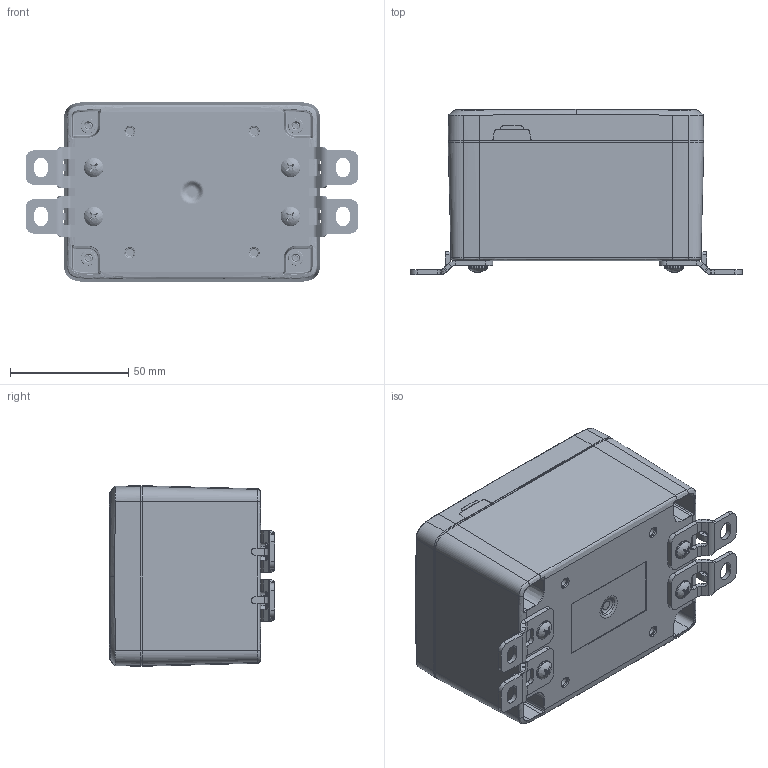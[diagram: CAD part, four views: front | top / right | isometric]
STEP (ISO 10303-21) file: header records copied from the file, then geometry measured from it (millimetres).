
FILE_DESCRIPTION (( 'STEP AP214' ), '1' );
FILE_NAME ('HN-34-22.STEP', '2026-09-24T17:59:54', ( '' ), ( '' ), 'SwSTEP 2.0', 'SolidWorks 2026', '' );
FILE_SCHEMA (( 'AUTOMOTIVE_DESIGN' ));
Length unit declared in the file: inch
Products named in the file (11): HN-34G_default; HN-90F-01_HN-90F-01; SCREWS-054_DEFAULT; HN-34C_HN-34C-02; HN-34-22; HN-34BN_HN-34BPN-01; HN-34CG_HN-34CG-02; LABEL-107; HN-34B_HN-34BP-01; INSERTS-3_INSERTS-3; SCREWS-xxx_#8-16 PLASTITE, PAN, PHILLIPS_SCREWS-044
Assembly tree (22 placements, depth 3):
  HN-34-22
    HN-34B_HN-34BP-01
      HN-34BN_HN-34BPN-01
      INSERTS-3_INSERTS-3  x4
      LABEL-107
    HN-34CG_HN-34CG-02
      HN-34C_HN-34C-02
      HN-34G_default
    SCREWS-054_DEFAULT  x4
    HN-90F-01_HN-90F-01  x4
    SCREWS-xxx_#8-16 PLASTITE, PAN, PHILLIPS_SCREWS-044  x4
Bounding box: 140.11 x 69.69 x 76.2 mm (x, y, z)
Volume: 145989.6 mm3; surface area: 108832.8 mm2
Topology: 19 solids, 21 shells, 3609 faces, 8679 edges, 5132 vertices
Faces by surface type: cylinder 752, plane 729, bspline 706, cone 678, torus 672, sphere 72
Full cylindrical faces by diameter (mm): 2.413 x4, 2.705 x4, 4.318 x4, 4.445 x16, 4.699 x8, 5.283 x8, 6.274 x4, 6.858 x4, 8.179 x4
Entity records: 109561 total; most frequent: CARTESIAN_POINT 50155, ORIENTED_EDGE 12722, DIRECTION 10893, EDGE_CURVE 6364, AXIS2_PLACEMENT_3D 4690, VERTEX_POINT 3858, EDGE_LOOP 3041, FACE_OUTER_BOUND 2859
